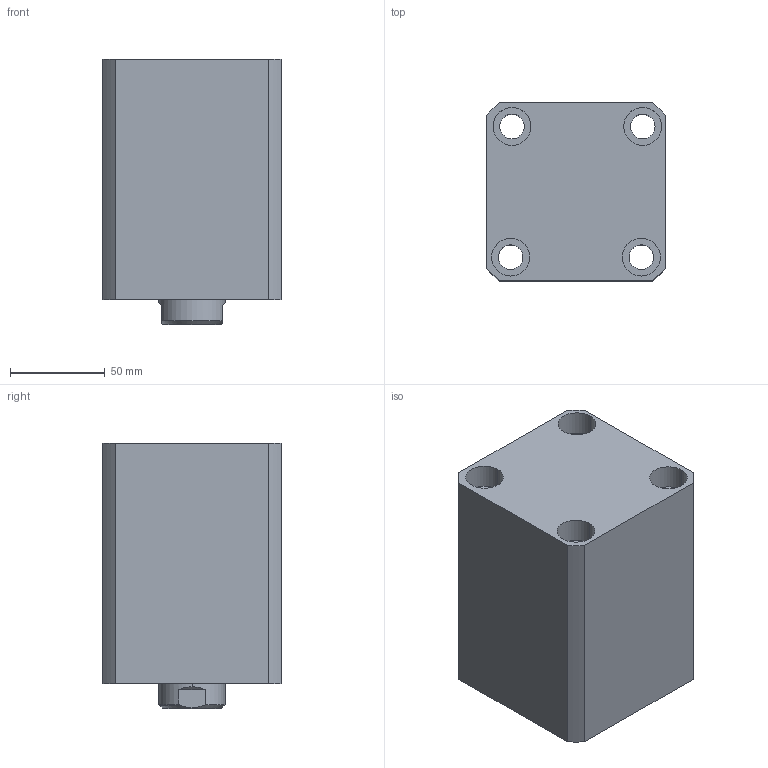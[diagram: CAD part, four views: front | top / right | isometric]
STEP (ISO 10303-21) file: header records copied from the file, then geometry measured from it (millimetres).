
FILE_DESCRIPTION (( 'STEP AP214' ), '1' );
FILE_NAME ('chtb-sdma63x60n_asm.STEP', '2018-05-16T02:32:29', ( 'Windows' ), ( 'Microsoft' ), 'SwSTEP 2.0', 'SolidWorks 2015', '' );
FILE_SCHEMA (( 'AUTOMOTIVE_DESIGN' ));
Length unit declared in the file: millimetre
Products named in the file (4): CHTB-SDMA63X60NBT; CHTB63X60NHSG; CHTB-63QG; chtb-sdma63x60n_asm
Assembly tree (3 placements, depth 2):
  chtb-sdma63x60n_asm
    CHTB-63QG
    CHTB63X60NHSG
    CHTB-SDMA63X60NBT
Bounding box: 94 x 94 x 140 mm (x, y, z)
Volume: 895978.2 mm3; surface area: 154073.7 mm2
Topology: 3 solids, 3 shells, 165 faces, 472 edges, 321 vertices
Faces by surface type: cylinder 107, plane 31, bspline 12, cone 8, torus 7
Entity records: 17727 total; most frequent: CARTESIAN_POINT 13576, ORIENTED_EDGE 932, DIRECTION 716, EDGE_CURVE 466, VERTEX_POINT 321, AXIS2_PLACEMENT_3D 288, EDGE_LOOP 197, ADVANCED_FACE 165
